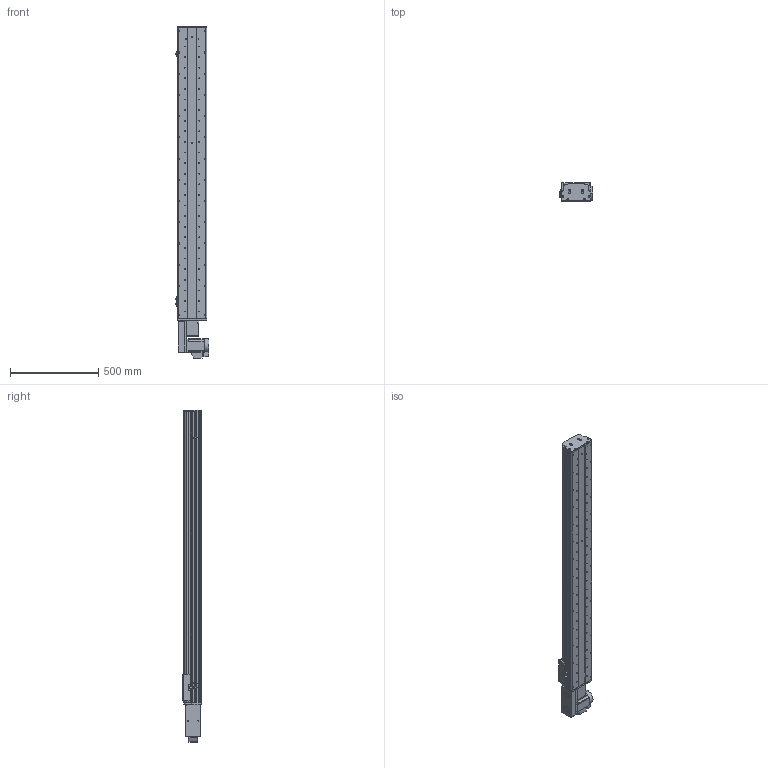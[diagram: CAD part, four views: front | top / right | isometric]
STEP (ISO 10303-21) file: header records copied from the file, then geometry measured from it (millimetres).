
FILE_DESCRIPTION (( 'STEP AP214' ), '1' );
FILE_NAME ('KSD165B-S1400-MLB-CM .STEP', '2017-10-16T06:32:15', ( '微软用户' ), ( '微软中国' ), 'SwSTEP 2.0', 'SolidWorks 2014', '' );
FILE_SCHEMA (( 'AUTOMOTIVE_DESIGN' ));
Length unit declared in the file: millimetre
Products named in the file (17): HTPA26S5M250-A-H8 750W萇儂蚚; HTPA26S5M250-A-H8 400W萇儂蚚 ; 130宽模组马达安装板连板左右折同步带; 130宽模组保护罩上下左右折-同步带; 165宽马达安装板同步带左-改; KSD165模组-同步带防尘盖1-1400行程; KSD165模组同步带底板-1400行程; 拸秶雄ん750W侜督萇儂; U倰嫖萇假蚾璃; U倰嫖萇EEㄜSX672; 覜茼え68遵圉猾敕; KSD165模组-同步带-防撞垫2; KSD165模组同步带-防撞垫1; KSD165耀郪-ヶ傷啣1-肮祭湍; KSD165模组-后端板1-同步带; KSD165模组-同步带滑动座-最新版; KSD165B-S1400-MLB-CM 
Assembly tree (20 placements, depth 2):
  KSD165B-S1400-MLB-CM 
    KSD165模组-同步带滑动座-最新版
    KSD165模组-后端板1-同步带
    KSD165耀郪-ヶ傷啣1-肮祭湍
    KSD165模组同步带-防撞垫1
    KSD165模组-同步带-防撞垫2
    覜茼え68遵圉猾敕
    U倰嫖萇EEㄜSX672  x3
    U倰嫖萇假蚾璃  x3
    拸秶雄ん750W侜督萇儂
    KSD165模组同步带底板-1400行程
    KSD165模组-同步带防尘盖1-1400行程
    165宽马达安装板同步带左-改
    130宽模组保护罩上下左右折-同步带
    130宽模组马达安装板连板左右折同步带
    HTPA26S5M250-A-H8 400W萇儂蚚 
    HTPA26S5M250-A-H8 750W萇儂蚚
Bounding box: 191.2 x 104 x 1878 mm (x, y, z)
Volume: 9723091.2 mm3; surface area: 2266085.3 mm2
Topology: 21 solids, 22 shells, 2033 faces, 5748 edges, 3756 vertices
Faces by surface type: cylinder 1325, plane 596, cone 112
Entity records: 66664 total; most frequent: CARTESIAN_POINT 13662, DIRECTION 10900, ORIENTED_EDGE 10156, EDGE_CURVE 5078, AXIS2_PLACEMENT_3D 4288, VERTEX_POINT 3348, CIRCLE 2452, VECTOR 2324
